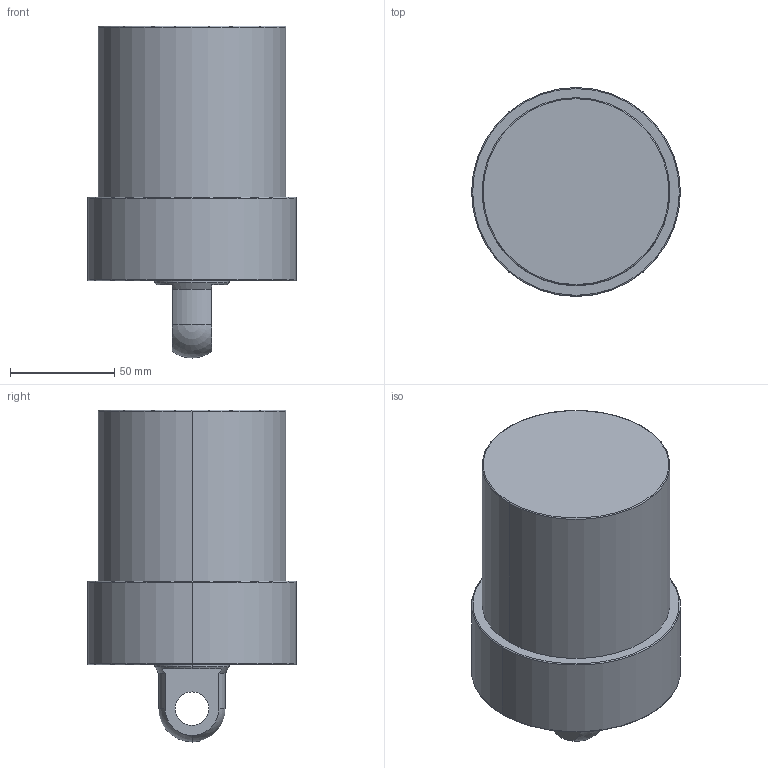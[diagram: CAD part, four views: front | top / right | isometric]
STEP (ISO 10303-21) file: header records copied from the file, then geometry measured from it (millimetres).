
FILE_DESCRIPTION (( 'STEP AP203' ), '1' );
FILE_NAME ('CLLU-090CP-060.STEP', '2020-01-13T03:27:30', ( '' ), ( '' ), 'SwSTEP 2.0', 'SolidWorks 2015', '' );
FILE_SCHEMA (( 'CONFIG_CONTROL_DESIGN' ));
Length unit declared in the file: millimetre
Products named in the file (1): CLLU-090CP-060
Bounding box: 100 x 100 x 159 mm (x, y, z)
Volume: 845504.6 mm3; surface area: 57319.8 mm2
Topology: 1 solids, 1 shells, 57 faces, 134 edges, 77 vertices
Faces by surface type: cylinder 22, cone 18, plane 9, torus 6, sphere 2
Entity records: 1643 total; most frequent: DIRECTION 308, CARTESIAN_POINT 267, ORIENTED_EDGE 244, AXIS2_PLACEMENT_3D 132, EDGE_CURVE 122, VERTEX_POINT 75, CIRCLE 74, EDGE_LOOP 67
